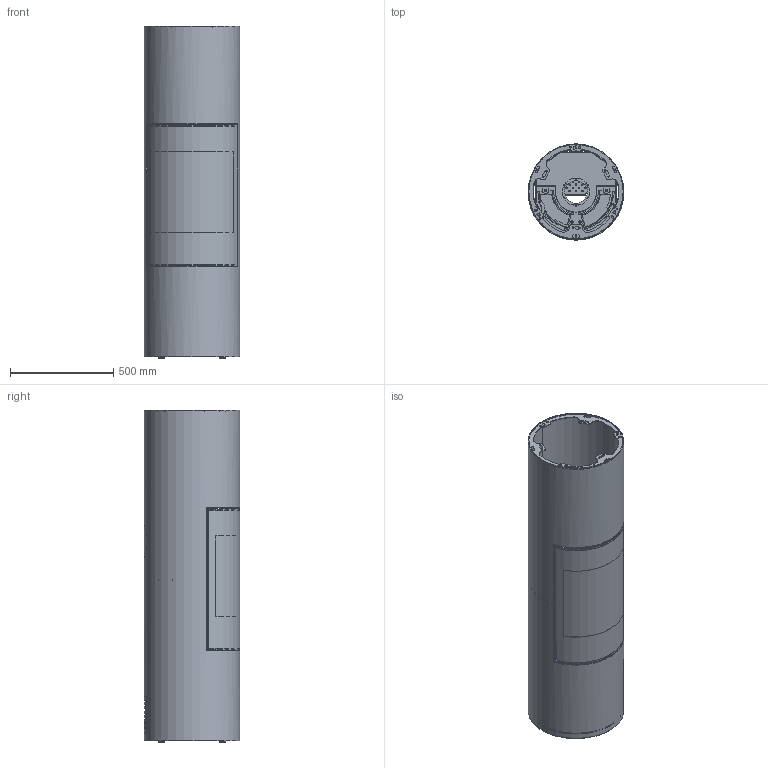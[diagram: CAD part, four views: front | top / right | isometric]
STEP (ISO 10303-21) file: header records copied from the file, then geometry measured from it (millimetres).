
FILE_DESCRIPTION(/* description */ (''),/* implementation_level */ '2;1');
FILE_NAME(/* name */ 'C:\WF\Designs\PROJEKTER\Salgsmateriale\Viva L 160 Gas - 38790.stp',/* time_stamp */ '2019-02-14T11:37:23+01:00',/* author */ ('ksj'),/* organization */ (''),/* preprocessor_version */ 'ST-DEVELOPER v16.13',/* originating_system */ 'Autodesk Inventor 2018',/* authorisation */ '');
FILE_SCHEMA (('AUTOMOTIVE_DESIGN { 1 0 10303 214 3 1 1 }'));
Length unit declared in the file: millimetre
Products named in the file (1): Viva L 160 Gas - 38790
Bounding box: 462 x 463 x 1605 mm (x, y, z)
Volume: 14128107.2 mm3; surface area: 8517300 mm2
Topology: 67 solids, 67 shells, 4094 faces, 11030 edges, 7021 vertices
Faces by surface type: plane 1806, cylinder 1619, bspline 405, torus 110, sphere 92, cone 62
Full cylindrical faces by diameter (mm): 4.134 x10, 4.2 x56, 5.1 x2, 5.5 x3, 6 x3, 6.2 x2, 6.75 x4, 8 x163, 8.1 x3, 8.5 x4, 9.99 x4, 10 x20, 10.2 x2, 10.5 x4, 32 x4, 110 x2, 159 x2, 456 x1, 462 x1
Entity records: 140667 total; most frequent: CARTESIAN_POINT 34645, DIRECTION 21387, ORIENTED_EDGE 20872, EDGE_CURVE 10436, AXIS2_PLACEMENT_3D 7951, VERTEX_POINT 6790, LINE 5485, VECTOR 5485
